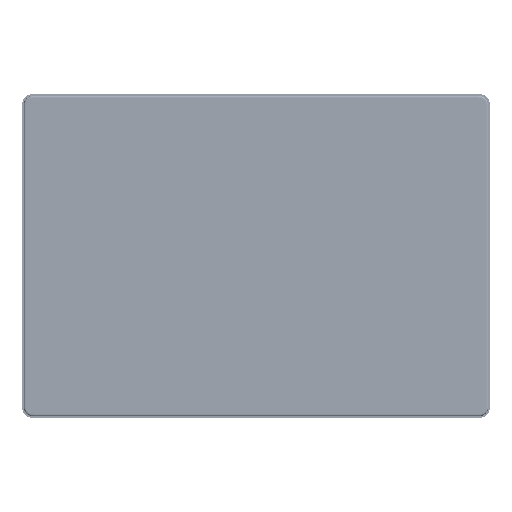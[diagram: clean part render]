
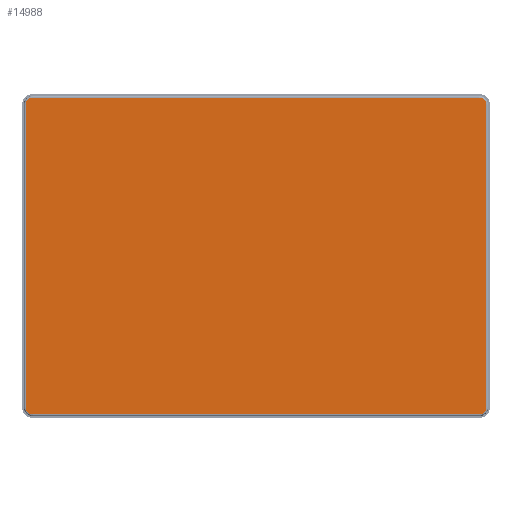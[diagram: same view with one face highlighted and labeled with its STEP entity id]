
A CAD part, front view. The second image highlights one B-rep face of the part: STEP entity #14988.
In plain terms, the highlighted planar face has unit normal (0, -1, 0).
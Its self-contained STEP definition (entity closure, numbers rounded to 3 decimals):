
#1160 = VECTOR ( 'NONE', #300501, 1000. ) ;
#7100 =( BOUNDED_CURVE ( )  B_SPLINE_CURVE ( 3, ( #340829, #417201, #343227, #262031 ),
 .UNSPECIFIED., .F., .T. ) 
 B_SPLINE_CURVE_WITH_KNOTS ( ( 4, 4 ),
 ( 0., 1. ),
 .UNSPECIFIED. ) 
 CURVE ( )  GEOMETRIC_REPRESENTATION_ITEM ( )  RATIONAL_B_SPLINE_CURVE ( ( 1., 0.805, 0.805, 1. ) ) 
 REPRESENTATION_ITEM ( '' )  );
#13863 = EDGE_CURVE ( 'NONE', #104549, #117543, #436676, .T. ) ;
#14988 = ADVANCED_FACE ( 'NONE', ( #263081 ), #103055, .F. ) ;
#15880 = ORIENTED_EDGE ( 'NONE', *, *, #308250, .F. ) ;
#22962 = CARTESIAN_POINT ( 'NONE',  ( -126.343, 0., -88. ) ) ;
#31542 = DIRECTION ( 'NONE',  ( 0., 0., 1. ) ) ;
#32379 = CARTESIAN_POINT ( 'NONE',  ( 128., 0., 84. ) ) ;
#37399 = DIRECTION ( 'NONE',  ( 0., 0., 1. ) ) ;
#39254 = CARTESIAN_POINT ( 'NONE',  ( -465.329, 0., -88. ) ) ;
#41683 = LINE ( 'NONE', #39254, #1160 ) ;
#51146 = CARTESIAN_POINT ( 'NONE',  ( 124., 0., 88. ) ) ;
#66115 = DIRECTION ( 'NONE',  ( 0., 1., 0. ) ) ;
#71035 = CARTESIAN_POINT ( 'NONE',  ( -124., 0., -88. ) ) ;
#72021 = VECTOR ( 'NONE', #37399, 1000. ) ;
#86641 = EDGE_CURVE ( 'NONE', #119461, #186388, #115099, .T. ) ;
#103055 = PLANE ( 'NONE',  #340713 ) ;
#104549 = VERTEX_POINT ( 'NONE', #71035 ) ;
#115099 =( BOUNDED_CURVE ( )  B_SPLINE_CURVE ( 3, ( #321855, #472171, #134563, #284907 ),
 .UNSPECIFIED., .F., .F. ) 
 B_SPLINE_CURVE_WITH_KNOTS ( ( 4, 4 ),
 ( 0., 1. ),
 .UNSPECIFIED. ) 
 CURVE ( )  GEOMETRIC_REPRESENTATION_ITEM ( )  RATIONAL_B_SPLINE_CURVE ( ( 1., 0.805, 0.805, 1. ) ) 
 REPRESENTATION_ITEM ( '' )  );
#117543 = VERTEX_POINT ( 'NONE', #156105 ) ;
#119461 = VERTEX_POINT ( 'NONE', #313880 ) ;
#132009 =( BOUNDED_CURVE ( )  B_SPLINE_CURVE ( 3, ( #177756, #140841, #296039, #32379 ),
 .UNSPECIFIED., .F., .F. ) 
 B_SPLINE_CURVE_WITH_KNOTS ( ( 4, 4 ),
 ( 0., 1. ),
 .UNSPECIFIED. ) 
 CURVE ( )  GEOMETRIC_REPRESENTATION_ITEM ( )  RATIONAL_B_SPLINE_CURVE ( ( 1., 0.805, 0.805, 1. ) ) 
 REPRESENTATION_ITEM ( '' )  );
#134563 = CARTESIAN_POINT ( 'NONE',  ( 126.343, 0., -88. ) ) ;
#140841 = CARTESIAN_POINT ( 'NONE',  ( 126.343, 0., 88. ) ) ;
#142582 = VERTEX_POINT ( 'NONE', #51146 ) ;
#156105 = CARTESIAN_POINT ( 'NONE',  ( -128., 0., -84. ) ) ;
#165698 = EDGE_CURVE ( 'NONE', #298055, #119461, #209827, .T. ) ;
#170746 = CARTESIAN_POINT ( 'NONE',  ( -124., 0., -88. ) ) ;
#175302 = DIRECTION ( 'NONE',  ( 0., 0., -1. ) ) ;
#175387 = EDGE_CURVE ( 'NONE', #186388, #104549, #41683, .T. ) ;
#177756 = CARTESIAN_POINT ( 'NONE',  ( 124., 0., 88. ) ) ;
#178691 = ORIENTED_EDGE ( 'NONE', *, *, #179961, .F. ) ;
#179961 = EDGE_CURVE ( 'NONE', #117543, #321389, #259223, .T. ) ;
#183867 = EDGE_CURVE ( 'NONE', #321389, #408190, #7100, .T. ) ;
#186388 = VERTEX_POINT ( 'NONE', #335943 ) ;
#186707 = ORIENTED_EDGE ( 'NONE', *, *, #175387, .F. ) ;
#191198 = CARTESIAN_POINT ( 'NONE',  ( 128., 0., 84. ) ) ;
#209827 = LINE ( 'NONE', #244396, #397633 ) ;
#214533 = DIRECTION ( 'NONE',  ( 1., 0., 0. ) ) ;
#226067 = CARTESIAN_POINT ( 'NONE',  ( 0., 0., 0. ) ) ;
#244396 = CARTESIAN_POINT ( 'NONE',  ( 128., 0., -321.041 ) ) ;
#252037 = CARTESIAN_POINT ( 'NONE',  ( -128., 0., -86.343 ) ) ;
#253933 = CARTESIAN_POINT ( 'NONE',  ( 465.329, 0., 88. ) ) ;
#255299 = ORIENTED_EDGE ( 'NONE', *, *, #183867, .F. ) ;
#259223 = LINE ( 'NONE', #409574, #72021 ) ;
#261257 = EDGE_CURVE ( 'NONE', #408190, #142582, #330315, .T. ) ;
#262031 = CARTESIAN_POINT ( 'NONE',  ( -124., 0., 88. ) ) ;
#263081 = FACE_OUTER_BOUND ( 'NONE', #428574, .T. ) ;
#283021 = ORIENTED_EDGE ( 'NONE', *, *, #261257, .F. ) ;
#284786 = ORIENTED_EDGE ( 'NONE', *, *, #13863, .F. ) ;
#284907 = CARTESIAN_POINT ( 'NONE',  ( 124., 0., -88. ) ) ;
#288203 = CARTESIAN_POINT ( 'NONE',  ( -128., 0., 84. ) ) ;
#290611 = VECTOR ( 'NONE', #214533, 1000. ) ;
#296039 = CARTESIAN_POINT ( 'NONE',  ( 128., 0., 86.343 ) ) ;
#298055 = VERTEX_POINT ( 'NONE', #191198 ) ;
#300501 = DIRECTION ( 'NONE',  ( -1., 0., 0. ) ) ;
#308250 = EDGE_CURVE ( 'NONE', #142582, #298055, #132009, .T. ) ;
#313880 = CARTESIAN_POINT ( 'NONE',  ( 128., 0., -84. ) ) ;
#321389 = VERTEX_POINT ( 'NONE', #288203 ) ;
#321855 = CARTESIAN_POINT ( 'NONE',  ( 128., 0., -84. ) ) ;
#330315 = LINE ( 'NONE', #253933, #290611 ) ;
#335943 = CARTESIAN_POINT ( 'NONE',  ( 124., 0., -88. ) ) ;
#340713 = AXIS2_PLACEMENT_3D ( 'NONE', #226067, #66115, #31542 ) ;
#340829 = CARTESIAN_POINT ( 'NONE',  ( -128., 0., 84. ) ) ;
#343227 = CARTESIAN_POINT ( 'NONE',  ( -126.343, 0., 88. ) ) ;
#357009 = CARTESIAN_POINT ( 'NONE',  ( -124., 0., 88. ) ) ;
#357098 = ORIENTED_EDGE ( 'NONE', *, *, #165698, .F. ) ;
#397633 = VECTOR ( 'NONE', #175302, 1000. ) ;
#404642 = ORIENTED_EDGE ( 'NONE', *, *, #86641, .F. ) ;
#408190 = VERTEX_POINT ( 'NONE', #357009 ) ;
#409574 = CARTESIAN_POINT ( 'NONE',  ( -128., 0., 321.041 ) ) ;
#417201 = CARTESIAN_POINT ( 'NONE',  ( -128., 0., 86.343 ) ) ;
#428574 = EDGE_LOOP ( 'NONE', ( #15880, #283021, #255299, #178691, #284786, #186707, #404642, #357098 ) ) ;
#436676 =( BOUNDED_CURVE ( )  B_SPLINE_CURVE ( 3, ( #170746, #22962, #252037, #476314 ),
 .UNSPECIFIED., .F., .F. ) 
 B_SPLINE_CURVE_WITH_KNOTS ( ( 4, 4 ),
 ( 0., 1. ),
 .UNSPECIFIED. ) 
 CURVE ( )  GEOMETRIC_REPRESENTATION_ITEM ( )  RATIONAL_B_SPLINE_CURVE ( ( 1., 0.805, 0.805, 1. ) ) 
 REPRESENTATION_ITEM ( '' )  );
#472171 = CARTESIAN_POINT ( 'NONE',  ( 128., 0., -86.343 ) ) ;
#476314 = CARTESIAN_POINT ( 'NONE',  ( -128., 0., -84. ) ) ;
